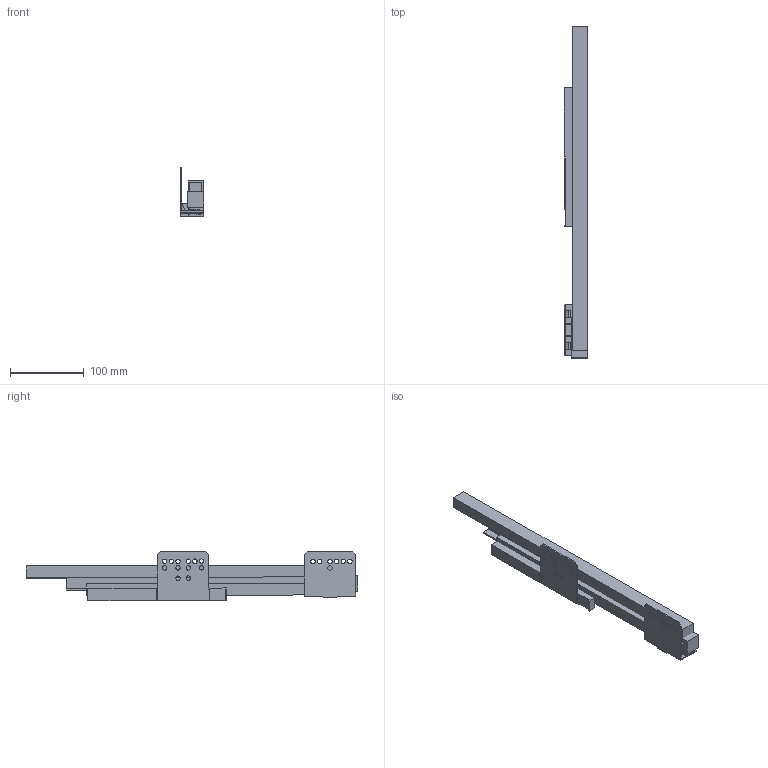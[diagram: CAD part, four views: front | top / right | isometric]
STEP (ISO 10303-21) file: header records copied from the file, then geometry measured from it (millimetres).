
FILE_DESCRIPTION (( 'STEP AP214' ), '1' );
FILE_NAME ('_IMOS Dynamic-XP VA 40kg NL450 LI.step', '2010-07-07T08:06:10', ( 'grass' ), ( '' ), 'SwSTEP 2.0', 'SolidWorks 2010', '' );
FILE_SCHEMA (( 'AUTOMOTIVE_DESIGN' ));
Length unit declared in the file: millimetre
Products named in the file (1): _IMOS Dynamic-XP VA 40kg NL450 LI
Bounding box: 32.04 x 449.89 x 66.67 mm (x, y, z)
Volume: 398299.5 mm3; surface area: 141771.3 mm2
Topology: 7 solids, 7 shells, 151 faces, 411 edges, 274 vertices
Faces by surface type: plane 111, cylinder 40
Entity records: 4913 total; most frequent: CARTESIAN_POINT 837, ORIENTED_EDGE 822, DIRECTION 795, EDGE_CURVE 411, LINE 331, VECTOR 331, VERTEX_POINT 274, AXIS2_PLACEMENT_3D 232
